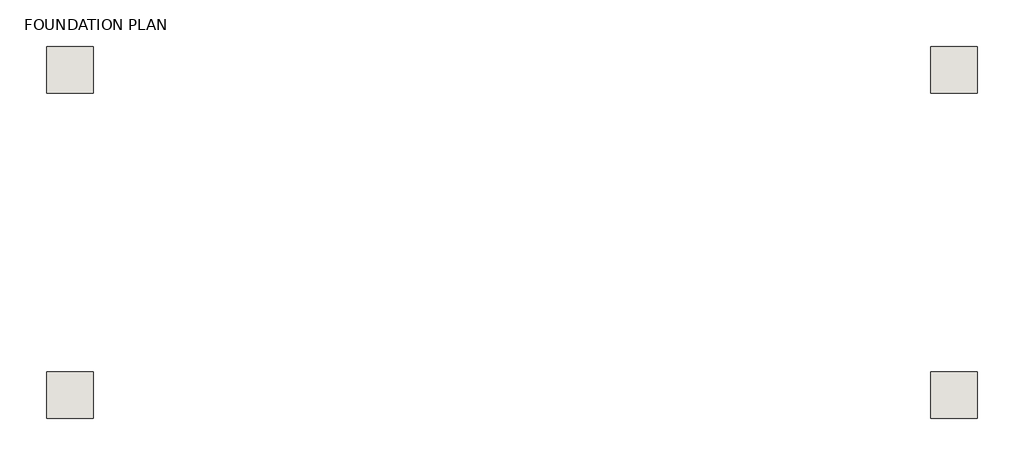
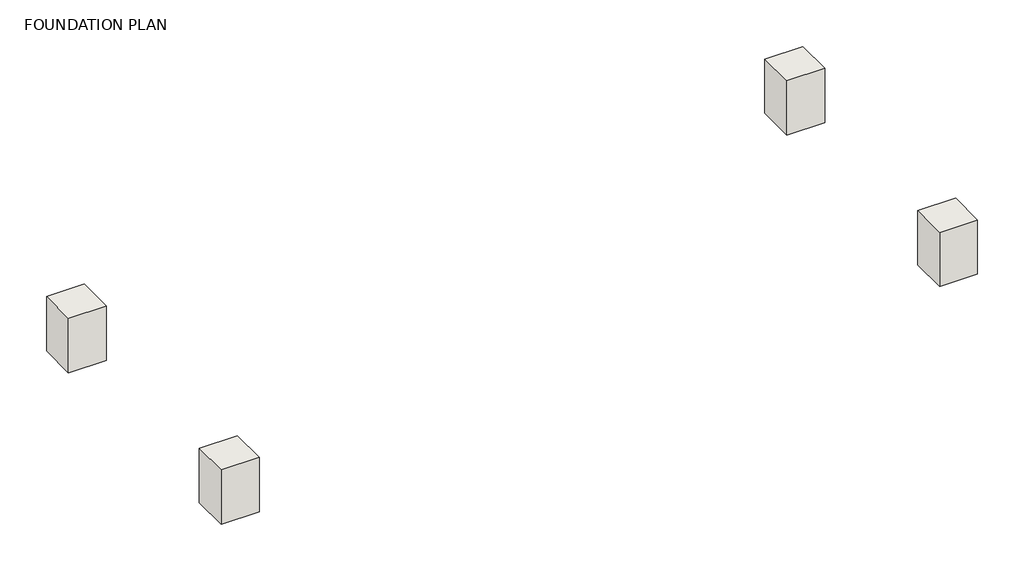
# One storey: 4 walls.
"""IFC4 building model written with IfcOpenShell, lengths in millimetres."""

from ifc_helpers import new_model, si_unit, frame, origin, place, context, project, spatial, polyline, outline, extrude, element, save

model = new_model("IFC4")

# Units and contexts
model_context = context("Model", 3, world=origin())
ifc_project = project(units=[si_unit("LENGTHUNIT", "METRE", prefix="MILLI")], contexts=[model_context])

# Site, building, storey
site = spatial("IfcSite", under=ifc_project)
building = spatial("IfcBuilding", under=site)
storey = spatial("IfcBuildingStorey", under=building, Name="FOUNDATION PLAN", Elevation=-609.6)

# Walls
placement = place(None, origin())
element("IfcWall", 1, ObjectType="GENERIC - 12\"", at=placement, inside=storey, context=model_context, shape_type="SweptSolid", body=[
    extrude(outline(polyline([(34786.4019592, 345904.6529935), (34481.6019592, 345904.6529935), (34481.6019592, 346209.4529935), (34786.4019592, 346209.4529935), (34786.4019592, 345904.6529935)])), frame((0.0, 0.0, -609.6), z_axis=(0.0, 0.0, 1.0), x_axis=(1.0, 0.0, 0.0)), (0.0, 0.0, 1.0), 463.55),
])
element("IfcWall", 2, ObjectType="GENERIC - 12\"", at=placement, inside=storey, context=model_context, shape_type="SweptSolid", body=[
    extrude(outline(polyline([(40577.6019592, 345904.6529935), (40272.8019592, 345904.6529935), (40272.8019592, 346209.4529935), (40577.6019592, 346209.4529935), (40577.6019592, 345904.6529935)])), frame((0.0, 0.0, -609.6), z_axis=(0.0, 0.0, 1.0), x_axis=(1.0, 0.0, 0.0)), (0.0, 0.0, 1.0), 463.55),
])
element("IfcWall", 3, ObjectType="GENERIC - 12\"", at=placement, inside=storey, context=model_context, shape_type="SweptSolid", body=[
    extrude(outline(polyline([(34786.4019592, 343771.0529935), (34481.6019592, 343771.0529935), (34481.6019592, 344075.8529935), (34786.4019592, 344075.8529935), (34786.4019592, 343771.0529935)])), frame((0.0, 0.0, -609.6), z_axis=(0.0, 0.0, 1.0), x_axis=(1.0, 0.0, 0.0)), (0.0, 0.0, 1.0), 463.55),
])
element("IfcWall", 4, ObjectType="GENERIC - 12\"", at=placement, inside=storey, context=model_context, shape_type="SweptSolid", body=[
    extrude(outline(polyline([(40577.6019592, 343771.0529935), (40272.8019592, 343771.0529935), (40272.8019592, 344075.8529935), (40577.6019592, 344075.8529935), (40577.6019592, 343771.0529935)])), frame((0.0, 0.0, -609.6), z_axis=(0.0, 0.0, 1.0), x_axis=(1.0, 0.0, 0.0)), (0.0, 0.0, 1.0), 463.55),
])

save(model, "model.ifc")
